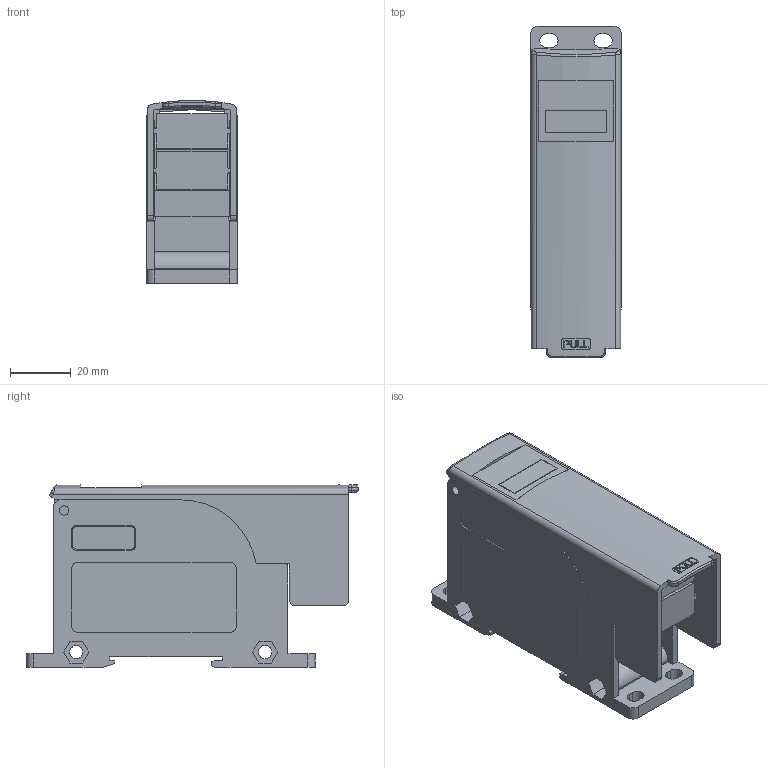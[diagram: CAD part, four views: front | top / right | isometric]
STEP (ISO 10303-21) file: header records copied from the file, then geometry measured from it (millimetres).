
FILE_DESCRIPTION(/* description */ (''),/* implementation_level */ '2;1');
FILE_NAME(/* name */ 'SPS30-S.stp',/* time_stamp */ '2019-11-01T08:28:09+09:00',/* author */ (''),/* organization */ (''),/* preprocessor_version */ 'ST-DEVELOPER v16.7',/* originating_system */ 'SIEMENS PLM Software NX 12.0',/* authorisation */ '');
FILE_SCHEMA (('AP203_CONFIGURATION_CONTROLLED_3D_DESIGN_OF_MECHANICAL_PARTS_AND_ASSEMBLIES_MIM_LF { 1 0 10303 403 2 1 2}'));
Length unit declared in the file: millimetre
Products named in the file (1): kim79EC393D9igv
Bounding box: 29.8 x 109 x 59.99 mm (x, y, z)
Volume: 82891.8 mm3; surface area: 33204.8 mm2
Topology: 1 solids, 1 shells, 308 faces, 867 edges, 572 vertices
Faces by surface type: plane 211, cylinder 75, bspline 8, cone 6, extrusion 6, torus 2
Full cylindrical faces by diameter (mm): 3.1 x2, 4.3 x2
Entity records: 10730 total; most frequent: CARTESIAN_POINT 2550, ORIENTED_EDGE 1730, DIRECTION 1596, EDGE_CURVE 865, VECTOR 644, LINE 638, VERTEX_POINT 578, AXIS2_PLACEMENT_3D 476
